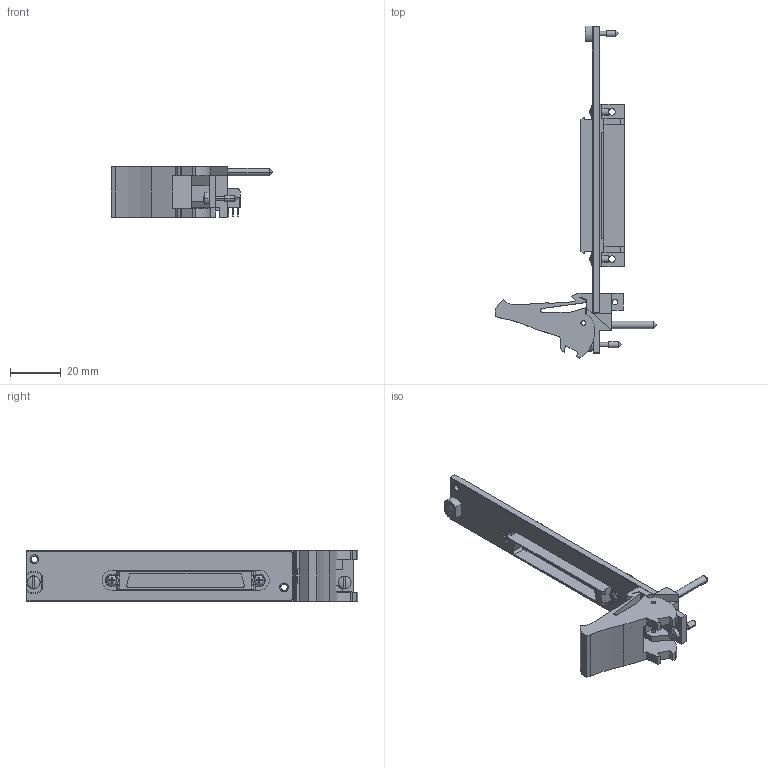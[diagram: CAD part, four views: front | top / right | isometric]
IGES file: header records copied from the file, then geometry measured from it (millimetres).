
Start section:  PTC IGES file: cu_pxi-mod-68pos-scsi-1.igs
Global section: file name: cu_pxi-mod-68pos-scsi-1.igs; native system: Pro/ENGINEER by Parametric Technology Corporation; preprocessor: 2006300; author: chrisj; organization: Unknown; date: 20070912.144850; units: inch
Bounding box: 63.53 x 130.62 x 20.02 mm (x, y, z)
Surface area: 15187.6 mm2 (no closed solid volume)
Topology: 0 solids, 0 shells, 370 faces, 1976 edges, 1972 vertices
Faces by surface type: bspline 243, revolution 127
